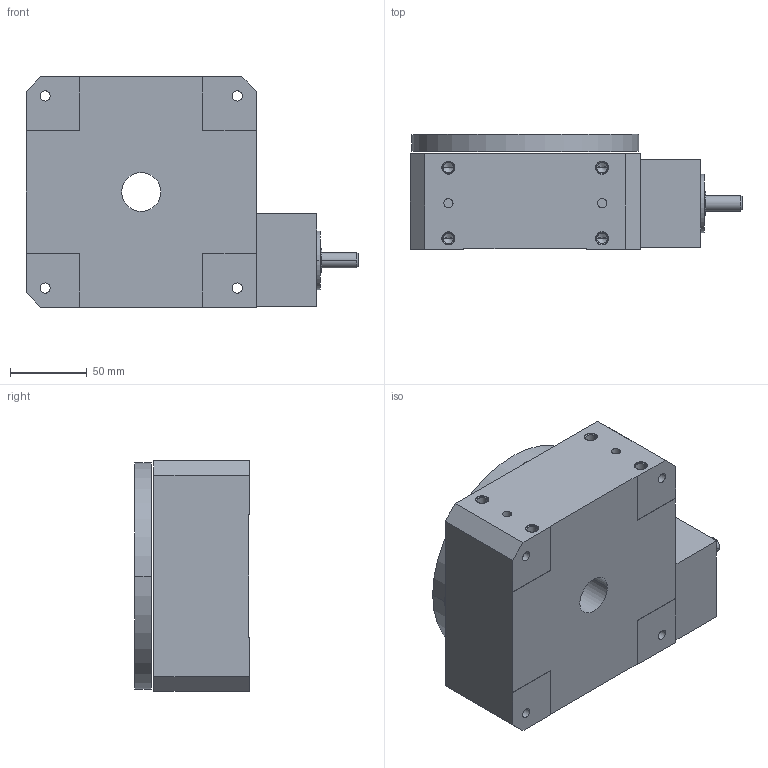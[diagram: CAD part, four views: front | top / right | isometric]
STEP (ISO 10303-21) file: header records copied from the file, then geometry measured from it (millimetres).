
FILE_DESCRIPTION((''),'2;1');
FILE_NAME('R150M7M00E0_ASM','2009-07-02T',('FK20128'),(''),'PRO/ENGINEER BY PARAMETRIC TECHNOLOGY CORPORATION, 2006200','PRO/ENGINEER BY PARAMETRIC TECHNOLOGY CORPORATION, 2006200','');
FILE_SCHEMA(('CONFIG_CONTROL_DESIGN'));
Length unit declared in the file: millimetre
Products named in the file (2): R150M; R150M7M00E0_ASM
Assembly tree (1 placements, depth 2):
  R150M7M00E0_ASM
    R150M
Bounding box: 216.09 x 74.83 x 150 mm (x, y, z)
Volume: 1656440 mm3; surface area: 148077.9 mm2
Topology: 2 solids, 18 shells, 199 faces, 489 edges, 320 vertices
Faces by surface type: cylinder 112, plane 61, cone 26
Entity records: 5991 total; most frequent: DIRECTION 1147, CARTESIAN_POINT 997, ORIENTED_EDGE 882, EDGE_CURVE 473, AXIS2_PLACEMENT_3D 470, VERTEX_POINT 320, EDGE_LOOP 269, CIRCLE 266
